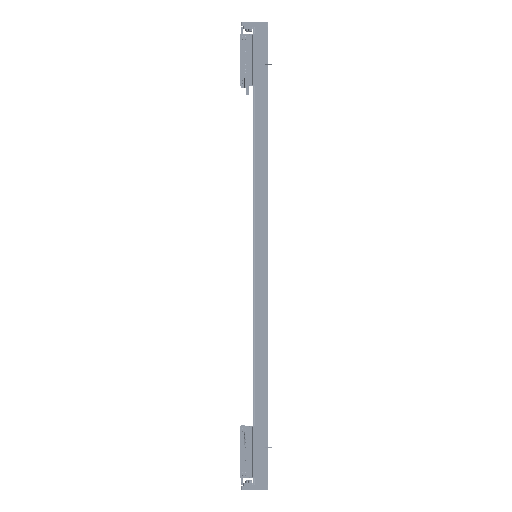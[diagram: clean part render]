
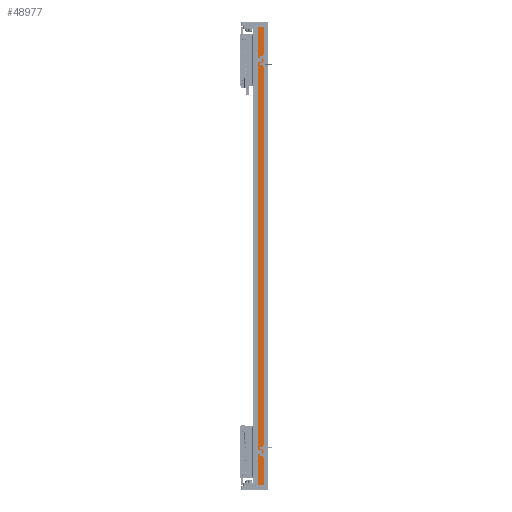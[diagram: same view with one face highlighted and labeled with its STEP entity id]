
A CAD part, left-side view. The second image highlights one B-rep face of the part: STEP entity #48977.
In plain terms, the highlighted planar face has unit normal (-1, 0, 0).
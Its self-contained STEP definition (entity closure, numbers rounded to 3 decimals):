
#854 = VERTEX_POINT ( 'NONE', #3050 ) ;
#1946 = LINE ( 'NONE', #73699, #115877 ) ;
#2301 = AXIS2_PLACEMENT_3D ( 'NONE', #88773, #37625, #17690 ) ;
#3050 = CARTESIAN_POINT ( 'NONE',  ( -97.5, 14.45, 840. ) ) ;
#3382 = CARTESIAN_POINT ( 'NONE',  ( -97.5, 36.95, 840. ) ) ;
#17690 = DIRECTION ( 'NONE',  ( 0., 1., 0. ) ) ;
#19045 = CARTESIAN_POINT ( 'NONE',  ( -97.5, 36.95, -840. ) ) ;
#23918 = CARTESIAN_POINT ( 'NONE',  ( -97.5, 36.95, 840. ) ) ;
#24703 = VERTEX_POINT ( 'NONE', #19045 ) ;
#25133 = ORIENTED_EDGE ( 'NONE', *, *, #36727, .F. ) ;
#29411 = EDGE_CURVE ( 'NONE', #121461, #24703, #74431, .T. ) ;
#29648 = FACE_OUTER_BOUND ( 'NONE', #102857, .T. ) ;
#33961 = CARTESIAN_POINT ( 'NONE',  ( -97.5, 36.95, 840. ) ) ;
#36727 = EDGE_CURVE ( 'NONE', #854, #108964, #62928, .T. ) ;
#37625 = DIRECTION ( 'NONE',  ( 1., 0., 0. ) ) ;
#38660 = ORIENTED_EDGE ( 'NONE', *, *, #66736, .F. ) ;
#44967 = CARTESIAN_POINT ( 'NONE',  ( -97.5, 14.45, 840. ) ) ;
#48977 = ADVANCED_FACE ( 'NONE', ( #29648 ), #128627, .F. ) ;
#55806 = EDGE_CURVE ( 'NONE', #24703, #108964, #1946, .T. ) ;
#62928 = LINE ( 'NONE', #44967, #128484 ) ;
#63744 = DIRECTION ( 'NONE',  ( 0., -1., 0. ) ) ;
#64455 = DIRECTION ( 'NONE',  ( 0., 0., -1. ) ) ;
#66736 = EDGE_CURVE ( 'NONE', #121461, #854, #86377, .T. ) ;
#73699 = CARTESIAN_POINT ( 'NONE',  ( -97.5, 36.95, -840. ) ) ;
#74431 = LINE ( 'NONE', #23918, #103874 ) ;
#83541 = CARTESIAN_POINT ( 'NONE',  ( -97.5, 14.45, -840. ) ) ;
#84517 = ORIENTED_EDGE ( 'NONE', *, *, #55806, .T. ) ;
#85735 = ORIENTED_EDGE ( 'NONE', *, *, #29411, .T. ) ;
#86377 = LINE ( 'NONE', #3382, #115308 ) ;
#88773 = CARTESIAN_POINT ( 'NONE',  ( -97.5, 36.95, 840. ) ) ;
#102857 = EDGE_LOOP ( 'NONE', ( #84517, #25133, #38660, #85735 ) ) ;
#103874 = VECTOR ( 'NONE', #64455, 1000. ) ;
#108964 = VERTEX_POINT ( 'NONE', #83541 ) ;
#114724 = DIRECTION ( 'NONE',  ( 0., 0., -1. ) ) ;
#115308 = VECTOR ( 'NONE', #126256, 1000. ) ;
#115877 = VECTOR ( 'NONE', #63744, 1000. ) ;
#121461 = VERTEX_POINT ( 'NONE', #33961 ) ;
#126256 = DIRECTION ( 'NONE',  ( 0., -1., 0. ) ) ;
#128484 = VECTOR ( 'NONE', #114724, 1000. ) ;
#128627 = PLANE ( 'NONE',  #2301 ) ;
